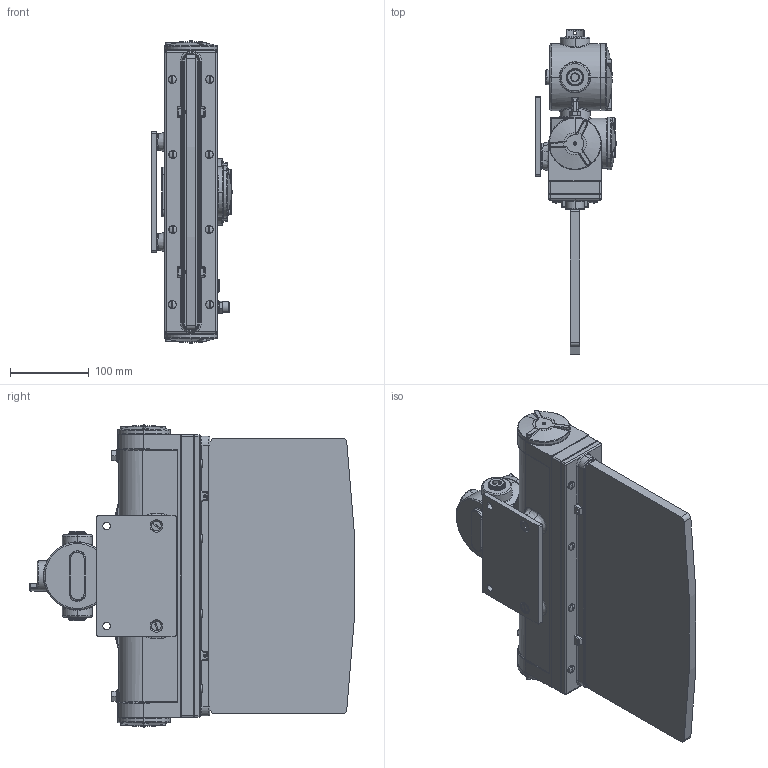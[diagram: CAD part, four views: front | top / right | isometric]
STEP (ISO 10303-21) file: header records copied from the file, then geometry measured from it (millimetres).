
FILE_DESCRIPTION (( 'STEP AP203' ), '1' );
FILE_NAME ('HAL-EMG-EXT-3W.STEP', '2016-12-08T14:35:02', ( '' ), ( '' ), 'SwSTEP 2.0', 'SolidWorks 2016', '' );
FILE_SCHEMA (( 'CONFIG_CONTROL_DESIGN' ));
Length unit declared in the file: inch
Products named in the file (13): binding head screw_ai_SL-BHMS 0.086-56x0.125x0.125-N; lock washer spring regular_ai_Regular LW 0.3125; hex bolt_ai_HBOLT 0.3125-18x1.5x0.875-S; EXP-EXT-3W Body_EXP-EXT-3W Body; binding head screw_ai_SL-BHMS 0.19-32x0.25x0.25-N; EXP-EXT-3W Body Cap_EXP-EXT-3W Body Cap; countersunk bolt_ai_CSBOLT 0.2500-20x0.5x0.5-S-N; EXP-EXT-3W Sign_EXP-EXT-3W Sign; HAL-EMG-EXT-3W; 4464K564_4464K564; EXP-EXT-3W Side Mount Plate_EXP-EXT-3W Side Mount Plate; socket set screw flat point_ai_SSFLATSKT 0.125-44x0.375-HX-N; socket set screw flat point_ai_SSFLATSKT 0.125-44x0.125-HX-N
Assembly tree (25 placements, depth 2):
  HAL-EMG-EXT-3W
    EXP-EXT-3W Body_EXP-EXT-3W Body
    EXP-EXT-3W Body Cap_EXP-EXT-3W Body Cap
    EXP-EXT-3W Sign_EXP-EXT-3W Sign
    EXP-EXT-3W Side Mount Plate_EXP-EXT-3W Side Mount Plate
    socket set screw flat point_ai_SSFLATSKT 0.125-44x0.375-HX-N
    socket set screw flat point_ai_SSFLATSKT 0.125-44x0.125-HX-N
    binding head screw_ai_SL-BHMS 0.086-56x0.125x0.125-N  x3
    lock washer spring regular_ai_Regular LW 0.3125  x2
    hex bolt_ai_HBOLT 0.3125-18x1.5x0.875-S  x2
    binding head screw_ai_SL-BHMS 0.19-32x0.25x0.25-N  x8
    countersunk bolt_ai_CSBOLT 0.2500-20x0.5x0.5-S-N  x2
    4464K564_4464K564  x2
Bounding box: 102.58 x 411.61 x 383.6 mm (x, y, z)
Volume: 3859599.3 mm3; surface area: 626087.7 mm2
Topology: 39 solids, 39 shells, 1417 faces, 3384 edges, 2060 vertices
Faces by surface type: cylinder 493, bspline 367, plane 309, cone 248
Entity records: 59008 total; most frequent: CARTESIAN_POINT 32596, ORIENTED_EDGE 5418, DIRECTION 4846, EDGE_CURVE 2709, AXIS2_PLACEMENT_3D 1971, VERTEX_POINT 1644, EDGE_LOOP 1265, FACE_OUTER_BOUND 1147
